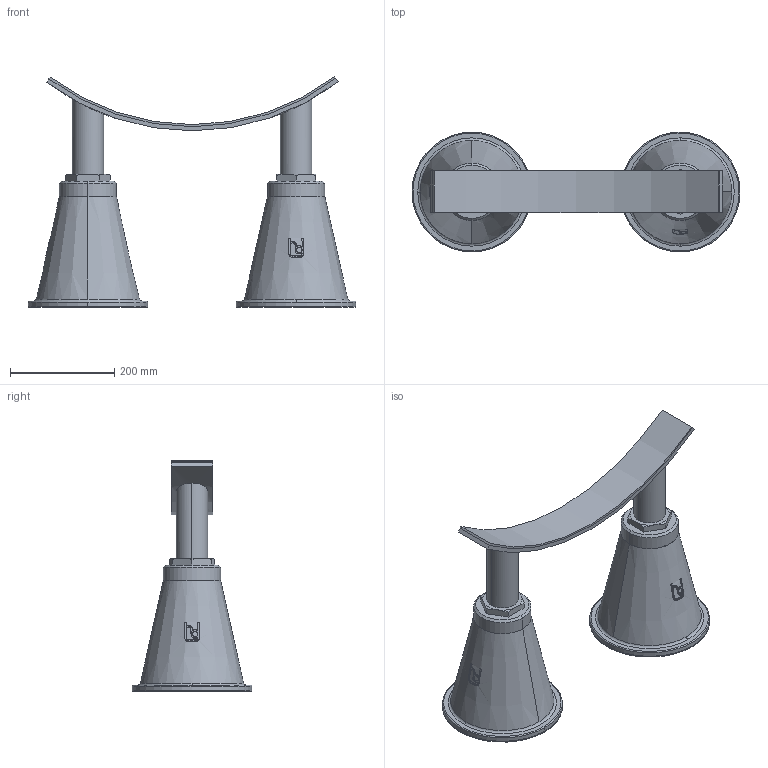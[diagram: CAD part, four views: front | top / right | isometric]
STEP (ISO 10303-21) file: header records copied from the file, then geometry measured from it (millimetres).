
FILE_DESCRIPTION(('STEP AP214'),'1');
FILE_NAME('RSRFA-DUO_DN900.stp','2018-06-25T11:11:38',(' '),(' '),'Spatial InterOp 3D',' ',' ');
FILE_SCHEMA(('automotive_design'));
Length unit declared in the file: millimetre
Products named in the file (10): 1; 2; 3; 4; 5; 6; 7; 8; 9; 10
Bounding box: 630 x 230 x 443.15 mm (x, y, z)
Volume: 11882677.6 mm3; surface area: 957657.4 mm2
Topology: 10 solids, 14 shells, 214 faces, 506 edges, 326 vertices
Faces by surface type: plane 84, cylinder 80, cone 42, torus 8
Entity records: 9589 total; most frequent: CARTESIAN_POINT 2752, DIRECTION 1044, ORIENTED_EDGE 1012, EDGE_CURVE 506, AXIS2_PLACEMENT_3D 410, VERTEX_POINT 326, EDGE_LOOP 232, STYLED_ITEM 224
